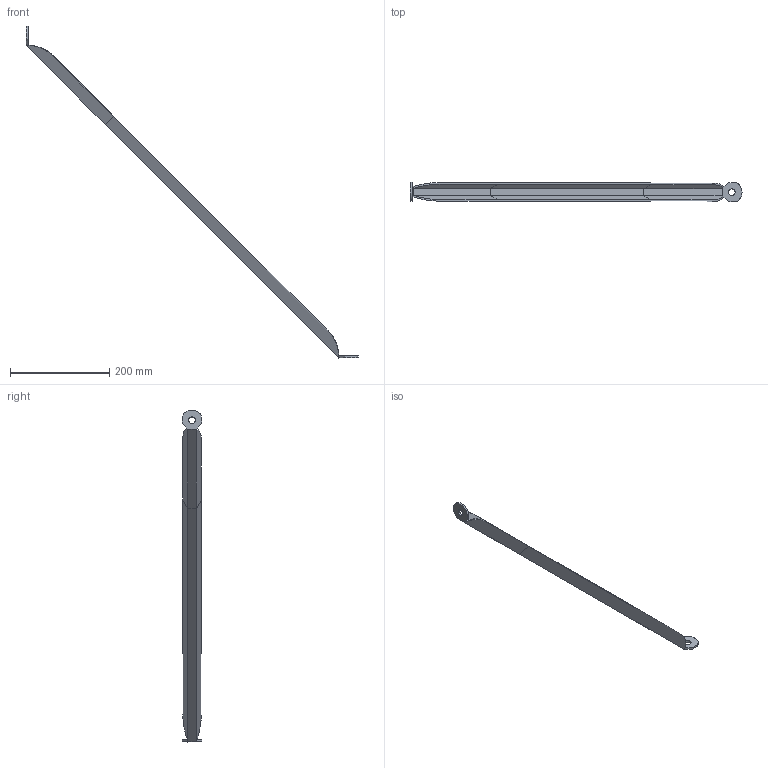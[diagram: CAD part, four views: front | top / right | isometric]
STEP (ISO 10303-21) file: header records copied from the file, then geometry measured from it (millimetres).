
FILE_DESCRIPTION(('TurboCAD Mac Pro'),'Build 980');
FILE_NAME('P2458-30.stp',' ',(''),(''),'ACIS Interop','IMSI','TurboCAD Mac Pro BY IMSI, INCORPORATED');
FILE_SCHEMA(('automotive_design'));
Length unit declared in the file: inch
Products named in the file (1): 1
Bounding box: 669.52 x 38.9 x 669.52 mm (x, y, z)
Volume: 186391.8 mm3; surface area: 119923.2 mm2
Topology: 1 solids, 1 shells, 72 faces, 191 edges, 121 vertices
Faces by surface type: plane 54, bspline 18
Entity records: 4027 total; most frequent: CARTESIAN_POINT 936, ORIENTED_EDGE 382, DIRECTION 248, STYLED_ITEM 246, PRESENTATION_STYLE_ASSIGNMENT 246, COLOUR_RGB 246, EDGE_CURVE 191, CURVE_STYLE 173
